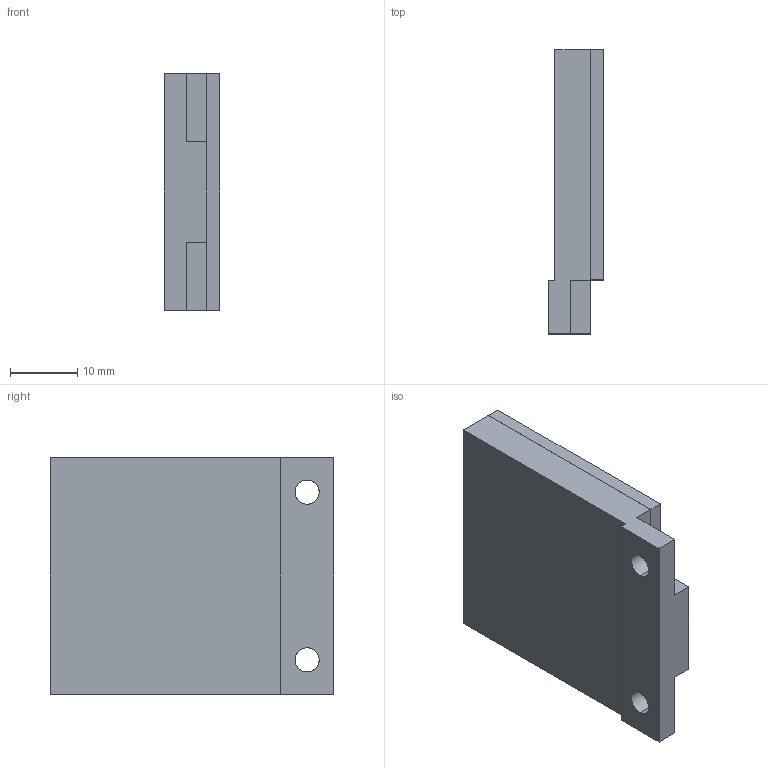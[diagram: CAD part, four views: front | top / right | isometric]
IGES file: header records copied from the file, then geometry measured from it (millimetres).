
Start section: SolidWorks IGES file using analytic representation for surfaces
Global section: file name: C:\catalog\RF-220.IGS; native system: SolidWorks 2005 by SolidWorks Corporation; preprocessor: SolidWorks 2005 by SolidWorks Corporation; author: yk0651; date: 070731.170707; units: millimetre
Bounding box: 8.3 x 42.3 x 35.3 mm (x, y, z)
Surface area: 4207.7 mm2 (no closed solid volume)
Topology: 0 solids, 0 shells, 23 faces, 240 edges, 240 vertices
Faces by surface type: bspline 19, revolution 4
